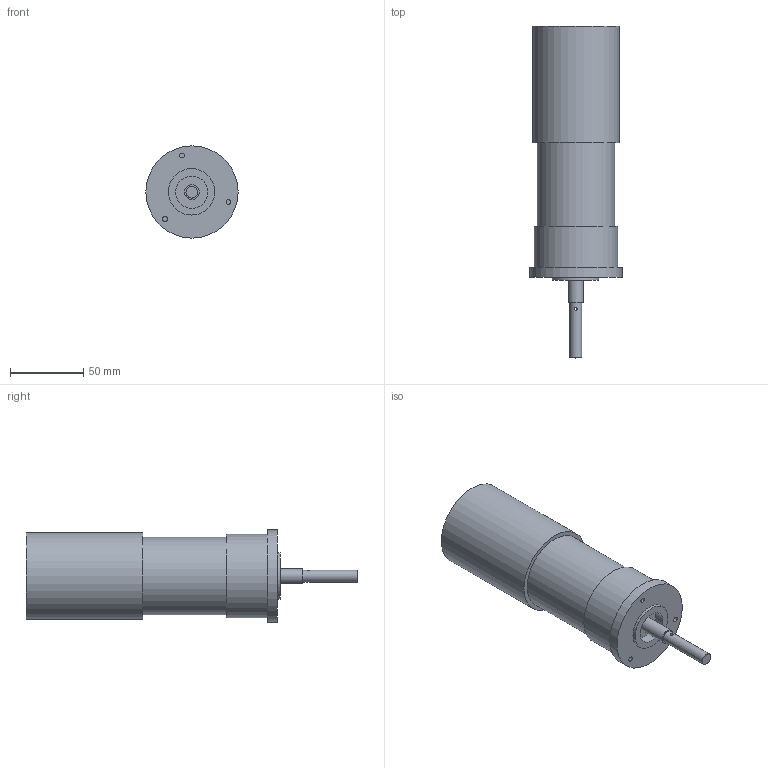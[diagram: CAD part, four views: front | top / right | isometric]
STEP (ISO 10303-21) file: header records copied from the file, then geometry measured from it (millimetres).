
FILE_DESCRIPTION( ( 'Unknown' ), '1' );
FILE_NAME( 'K:/JVL/MACxxx/MAC50_95_140_141/CAD internet tegninger/STEP/STP/LT0205-12GB.stp', 'Unknown', ( 'Unknown' ), ( 'Unknown' ), 'PSStep 11.0', 'Unknown', ' ' );
FILE_SCHEMA( ( 'AUTOMOTIVE_DESIGN { 1 0 10303 214 1 1 1 1 }' ) );
Length unit declared in the file: millimetre
Products named in the file (1): 1
Bounding box: 63 x 226.5 x 63 mm (x, y, z)
Volume: 439506.5 mm3; surface area: 40642.3 mm2
Topology: 1 solids, 1 shells, 24 faces, 39 edges, 27 vertices
Faces by surface type: cylinder 12, plane 12
Full cylindrical faces by diameter (mm): 2 x1, 3.242 x3, 8 x1, 10 x1, 22 x1, 31.7 x1, 53 x1, 57 x1, 59.1 x1, 63 x1
Entity records: 752 total; most frequent: CARTESIAN_POINT 135, DIRECTION 94, EDGE_LOOP 48, ORIENTED_EDGE 48, AXIS2_PLACEMENT_3D 47, FACE_OUTER_BOUND 36, STYLED_ITEM 24, PRESENTATION_STYLE_ASSIGNMENT 24
